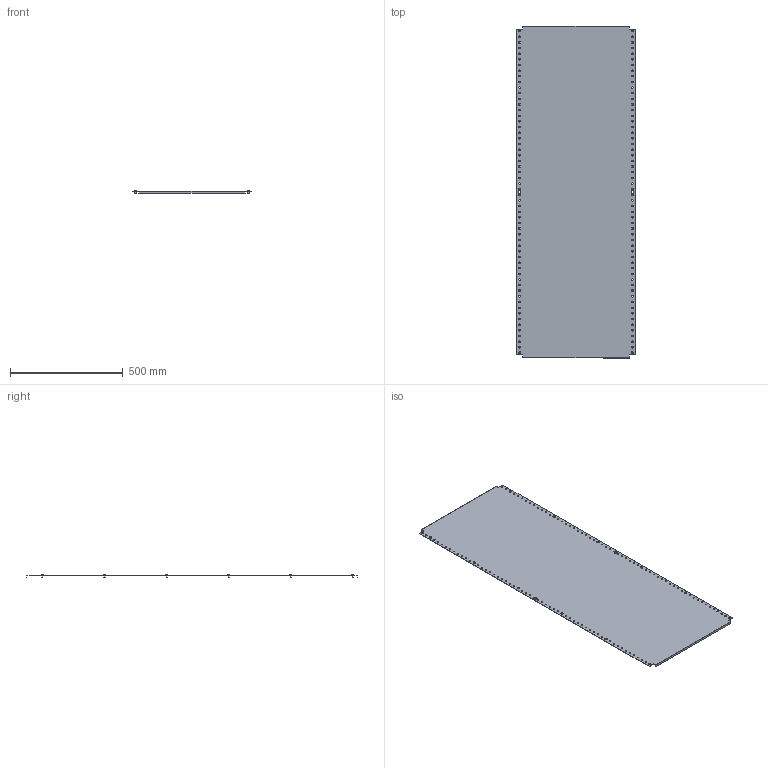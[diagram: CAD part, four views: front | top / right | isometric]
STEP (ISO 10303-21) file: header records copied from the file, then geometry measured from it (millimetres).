
FILE_DESCRIPTION (( 'STEP AP203' ), '1' );
FILE_NAME ('R6MP1660.STEP', '2025-03-28T12:09:27', ( '' ), ( '' ), 'SwSTEP 2.0', 'SolidWorks 2022', '' );
FILE_SCHEMA (( 'CONFIG_CONTROL_DESIGN' ));
Length unit declared in the file: millimetre
Products named in the file (3): RB.3293.00.00.0_-17; M5x12 DIN 7500 C Torx Zinc_stright; R6MP1660
Assembly tree (13 placements, depth 2):
  R6MP1660
    RB.3293.00.00.0_-17
    M5x12 DIN 7500 C Torx Zinc_stright  x12
Bounding box: 525 x 1470 x 15.56 mm (x, y, z)
Volume: 1397804.6 mm3; surface area: 1564218 mm2
Topology: 13 solids, 13 shells, 342 faces, 804 edges, 500 vertices
Faces by surface type: cylinder 144, plane 126, torus 24, cone 24, sphere 12, bspline 12
Full cylindrical faces by diameter (mm): 5 x12, 6.5 x116, 9.5 x12
Entity records: 6213 total; most frequent: CARTESIAN_POINT 1044, DIRECTION 956, ORIENTED_EDGE 696, EDGE_LOOP 526, AXIS2_PLACEMENT_3D 434, EDGE_CURVE 348, VERTEX_POINT 310, FACE_OUTER_BOUND 288
